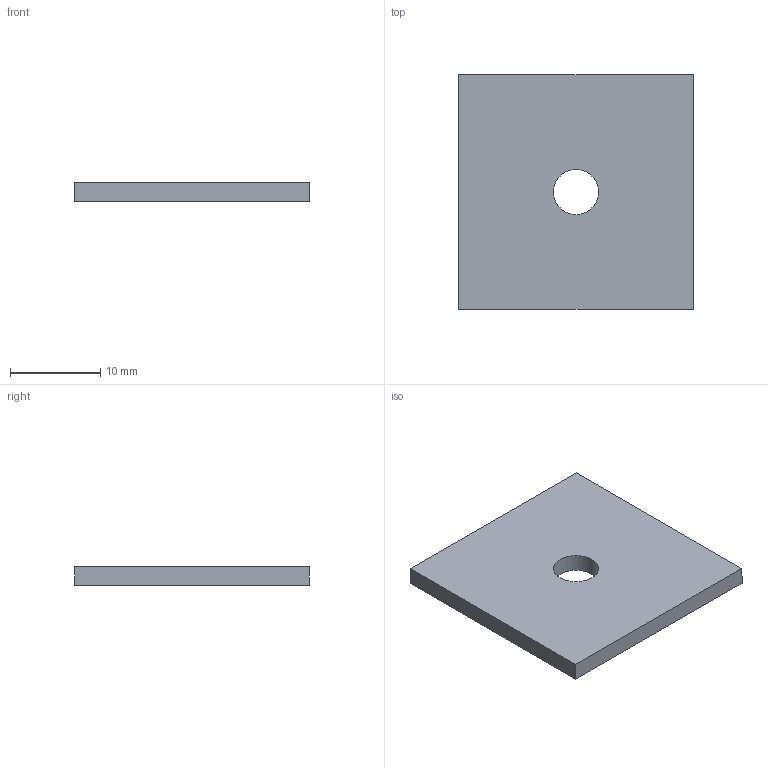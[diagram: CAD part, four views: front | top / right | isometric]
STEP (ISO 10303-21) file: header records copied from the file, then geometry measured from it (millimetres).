
FILE_DESCRIPTION(('STEP AP214'),'1');
FILE_NAME('tmp0.step','2025-04-04T19:11:40',(' '),(' '),'Spatial InterOp 3D',' ',' ');
FILE_SCHEMA(('AUTOMOTIVE_DESIGN { 1 0 10303 214 1 1 1 1 }'));
Length unit declared in the file: millimetre
Products named in the file (1): 1
Bounding box: 26 x 26 x 2 mm (x, y, z)
Volume: 1312.7 mm3; surface area: 1552.1 mm2
Topology: 1 solids, 1 shells, 8 faces, 18 edges, 12 vertices
Faces by surface type: plane 6, cylinder 2
Entity records: 255 total; most frequent: DIRECTION 40, CARTESIAN_POINT 39, ORIENTED_EDGE 36, EDGE_CURVE 18, LINE 14, VECTOR 14, AXIS2_PLACEMENT_3D 13, VERTEX_POINT 12
